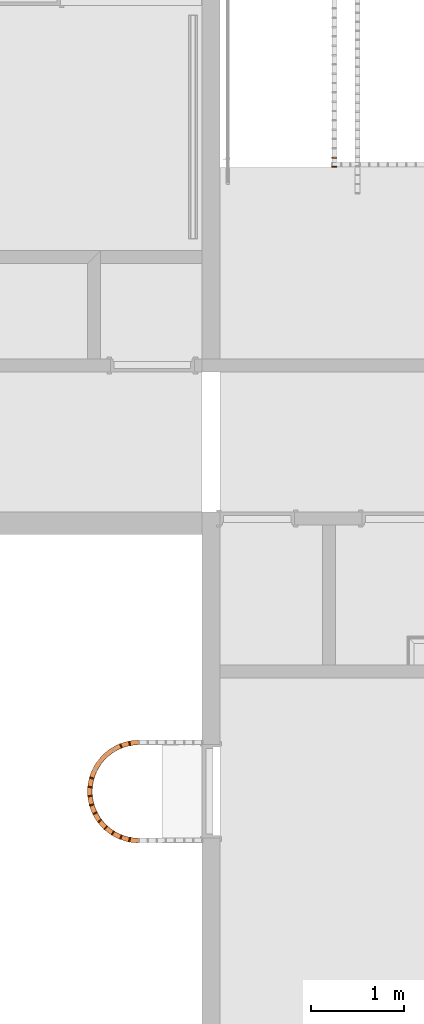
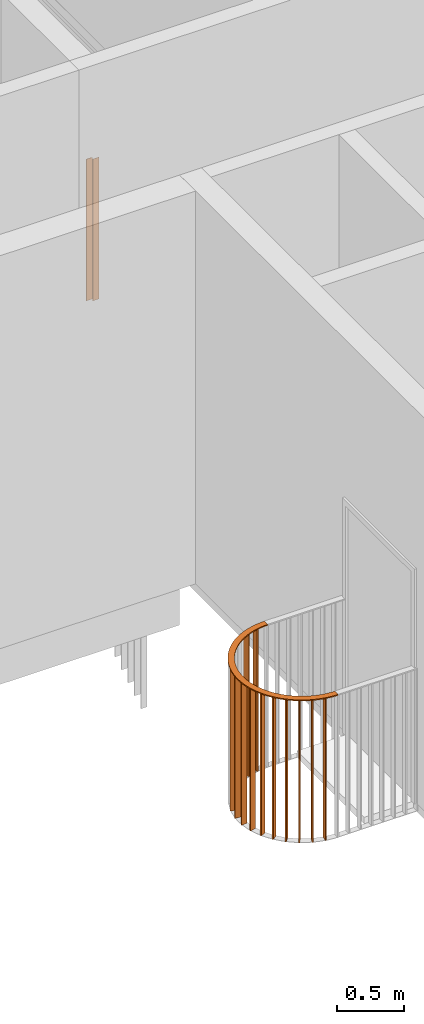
# One storey, part 90 of 100: 15 proxies, 2 elements without a shape of their own.
"""IFC2X3 building model written with IfcOpenShell, lengths in millimetres."""

from ifc_helpers import new_model, entity, si_unit, converted_unit, derived_unit, money_unit, direction, frame, origin_with_axes, place, context, subcontext, project, spatial, faceted_brep, material, type_object, element, aggregate, save


model = new_model("IFC2X3")

# Units and contexts
model_context = context("Model", 3, precision=0.01, world=origin_with_axes(), true_north=direction((0.0, 1.0)))
body_context = subcontext(model_context, "Body", "Model", "MODEL_VIEW")
ifc_project = project(units=[si_unit("LENGTHUNIT", "METRE", prefix="MILLI"), si_unit("AREAUNIT", "SQUARE_METRE"), si_unit("VOLUMEUNIT", "CUBIC_METRE"), converted_unit("PLANEANGLEUNIT", "DEGREE", entity("IfcPlaneAngleMeasure", 0.0174532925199), si_unit("PLANEANGLEUNIT", "RADIAN"), dimensions=[0, 0, 0, 0, 0, 0, 0]), si_unit("SOLIDANGLEUNIT", "STERADIAN"), money_unit("EUR"), converted_unit("TIMEUNIT", "Year", entity("IfcTimeMeasure", 31556926.0), si_unit("TIMEUNIT", "SECOND"), dimensions=[0, 0, 1, 0, 0, 0, 0]), si_unit("MASSUNIT", "GRAM", prefix="KILO"), si_unit("THERMODYNAMICTEMPERATUREUNIT", "DEGREE_CELSIUS"), si_unit("LUMINOUSINTENSITYUNIT", "LUMEN"), si_unit("ENERGYUNIT", "JOULE", prefix="MEGA"), derived_unit("THERMALCONDUCTANCEUNIT", [(si_unit("POWERUNIT", "WATT"), 1), (si_unit("LENGTHUNIT", "METRE"), -1), (si_unit("THERMODYNAMICTEMPERATUREUNIT", "KELVIN"), -1)]), derived_unit("SPECIFICHEATCAPACITYUNIT", [(si_unit("ENERGYUNIT", "JOULE"), 1), (si_unit("MASSUNIT", "GRAM", prefix="KILO"), -1), (si_unit("THERMODYNAMICTEMPERATUREUNIT", "KELVIN"), -1)]), derived_unit("MASSDENSITYUNIT", [(si_unit("MASSUNIT", "GRAM", prefix="KILO"), 1), (si_unit("VOLUMEUNIT", "CUBIC_METRE"), -1)])], contexts=[model_context])

# Site, building, storey
site_placement = place(None, origin_with_axes())
site = spatial("IfcSite", under=ifc_project, at=site_placement, Name="Politse- ja Piirivalveameti ning Päästeameti ühishoone", CompositionType="ELEMENT")
building_placement = place(site_placement, origin_with_axes())
building = spatial("IfcBuilding", under=site, at=building_placement, Name="Politse- ja Piirivalveameti ning Päästeameti ühishoone", CompositionType="ELEMENT")
storey_placement = place(building_placement, frame((0.0, 0.0, 3800.0), z_axis=(0.0, 0.0, 1.0), x_axis=(1.0, 0.0, 0.0)))
storey = spatial("IfcBuildingStorey", under=building, at=storey_placement, Name="Teine korrus", CompositionType="ELEMENT", Elevation=3800.0)

# Railing, proxies
railing_type = type_object("IfcRailingType", Name="Railing Type", PredefinedType="NOTDEFINED")
railing_1_placement = place(storey_placement, frame((61360.5519118, 16576.8795104, -2027.27275421), z_axis=(0.0, 0.0, 1.0), x_axis=(1.0, 0.0, 0.0)))
railing_1 = element("IfcRailing", 1, at=railing_1_placement, inside=storey, type_object=railing_type, Name="TREPIPIIRE 4", PredefinedType="NOTDEFINED")
ifc_material = material(Name="Teras - Konstruktsioon")
building_element_proxy_type = type_object("IfcBuildingElementProxyType", Name="IfcBuildingElementProxy", PredefinedType="NOTDEFINED")
proxy_1_placement = place(railing_1_placement, frame((25.0, 123.072572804, 1727.27272727), z_axis=(0.0, 0.0, 1.0), x_axis=(1.0, 0.0, 0.0)))
proxy_1 = element("IfcBuildingElementProxy", 2, at=proxy_1_placement, type_object=building_element_proxy_type, material=ifc_material, Name="PIIRDE POST - 001", context=body_context, shape_type="Brep", body=[
    faceted_brep([(25.0, 5.0, -3.08441558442), (-25.0, 5.0, -3.08441558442), (-25.0, 5.0, 1286.91558442), (25.0, 5.0, 1286.91558442), (25.0, -5.0, 3.08441558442), (-25.0, -5.0, 3.08441558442), (-25.0, -5.0, 1293.08441558), (25.0, -5.0, 1293.08441558)], [[[0, 1, 2, 3]], [[0, 4, 5, 1]], [[1, 5, 6, 2]], [[3, 2, 6, 7]], [[4, 0, 3, 7]], [[5, 4, 7, 6]]]),
])
proxy_2_placement = place(railing_1_placement, frame((25.0, 223.072572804, 1665.58440303), z_axis=(0.0, 0.0, 1.0), x_axis=(1.0, 0.0, 0.0)))
proxy_2 = element("IfcBuildingElementProxy", 3, at=proxy_2_placement, type_object=building_element_proxy_type, material=ifc_material, Name="BALUSTER - 001", context=body_context, shape_type="Brep", body=[
    faceted_brep([(25.0, 5.0, -3.08441558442), (-25.0, 5.0, -3.08441558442), (-25.0, 5.0, 1286.91559697), (25.0, 5.0, 1286.91559697), (25.0, -5.0, 3.08441558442), (-25.0, -5.0, 3.08441558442), (-25.0, -5.0, 1293.08442814), (25.0, -5.0, 1293.08442814)], [[[0, 1, 2, 3]], [[0, 4, 5, 1]], [[1, 5, 6, 2]], [[3, 2, 6, 7]], [[4, 0, 3, 7]], [[5, 4, 7, 6]]]),
])
aggregate(railing_1, [proxy_1, proxy_2])

railing_2_placement = place(storey_placement, frame((60714.0159923, 9501.12856913, -60.5112732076), z_axis=(0.0, 0.0, 1.0), x_axis=(0.0, 1.0, 0.0)))
railing_2 = element("IfcRailing", 4, at=railing_2_placement, inside=storey, type_object=railing_type, Name="PIIRE 13", PredefinedType="NOTDEFINED")
proxy_3_placement = place(railing_2_placement, frame((500.492559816, 1161.91857124, 1273.07417596), z_axis=(0.0, 0.0, 1.0), x_axis=(0.0, -1.0, 0.0)))
proxy_3 = element("IfcBuildingElementProxy", 5, at=proxy_3_placement, type_object=building_element_proxy_type, material=ifc_material, Name="Piirde Ülaosa - 001", context=body_context, shape_type="Brep", body=[
    faceted_brep([(-263.406928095, -500.494499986, 26.9258240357), (-263.406928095, -500.494499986, 16.9258240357), (-297.882095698, -499.162861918, 16.9258240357), (-297.882095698, -499.162861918, 26.9258240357), (-264.486125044, -550.490100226, 26.9258240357), (-264.486125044, -550.490100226, 16.9258240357), (-301.513778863, -549.059869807, 16.9258240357), (-338.781767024, -545.068060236, 16.9258240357), (-375.69175674, -538.549613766, 16.9258240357), (-412.07265352, -529.534746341, 16.9258240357), (-447.75581546, -518.06524595, 16.9258240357), (-482.57583497, -504.194278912, 16.9258240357), (-516.371305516, -487.986143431, 16.9258240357), (-548.985569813, -469.515971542, 16.9258240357), (-580.267445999, -448.869380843, 16.9258240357), (-610.071928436, -426.142077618, 16.9258240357), (-638.260859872, -401.439413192, 16.9258240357), (-664.703571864, -374.875895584, 16.9258240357), (-689.277490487, -346.574658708, 16.9258240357), (-711.868704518, -316.666891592, 16.9258240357), (-732.372493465, -285.29123026, 16.9258240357), (-750.693812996, -252.593115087, 16.9258240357), (-766.747735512, -218.724116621, 16.9258240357), (-780.459843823, -183.841232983, 16.9258240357), (-791.766576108, -148.106162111, 16.9258240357), (-800.615520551, -111.684552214, 16.9258240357), (-806.965658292, -74.7452339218, 16.9258240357), (-810.787553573, -37.459437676, 16.9258240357), (-812.063490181, 0.0, 16.9258240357), (-762.034493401, 0.0, 16.9258240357), (-760.874510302, -34.0552299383, 16.9258240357), (-757.399938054, -67.9525984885, 16.9258240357), (-751.626882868, -101.534976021, 16.9258240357), (-743.582105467, -134.646693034, 16.9258240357), (-733.302897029, -167.134261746, 16.9258240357), (-720.836906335, -198.847087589, 16.9258240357), (-706.241918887, -229.638167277, 16.9258240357), (-689.585589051, -259.364770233, 16.9258240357), (-670.945126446, -287.889100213, 16.9258240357), (-650.406938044, -315.078934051, 16.9258240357), (-628.066227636, -340.808234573, 16.9258240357), (-604.026554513, -364.957734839, 16.9258240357), (-578.399353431, -387.415490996, 16.9258240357), (-551.303418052, -408.077401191, 16.9258240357), (-522.864350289, -426.847688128, 16.9258240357), (-493.213978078, -443.639343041, 16.9258240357), (-462.489744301, -458.374529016, 16.9258240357), (-430.834069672, -470.984941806, 16.9258240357), (-398.393692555, -481.412126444, 16.9258240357), (-365.318988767, -489.607748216, 16.9258240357), (-331.763274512, -495.53381671, 16.9258240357), (-331.763274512, -495.53381671, 26.9258240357), (-365.318988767, -489.607748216, 26.9258240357), (-398.393692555, -481.412126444, 26.9258240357), (-430.834069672, -470.984941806, 26.9258240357), (-462.489744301, -458.374529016, 26.9258240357), (-493.213978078, -443.639343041, 26.9258240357), (-522.864350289, -426.847688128, 26.9258240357), (-551.303418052, -408.077401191, 26.9258240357), (-578.399353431, -387.415490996, 26.9258240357), (-604.026554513, -364.957734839, 26.9258240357), (-628.066227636, -340.808234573, 26.9258240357), (-650.406938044, -315.078934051, 26.9258240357), (-670.945126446, -287.889100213, 26.9258240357), (-689.585589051, -259.364770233, 26.9258240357), (-706.241918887, -229.638167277, 26.9258240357), (-720.836906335, -198.847087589, 26.9258240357), (-733.302897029, -167.134261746, 26.9258240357), (-743.582105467, -134.646693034, 26.9258240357), (-751.626882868, -101.534976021, 26.9258240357), (-757.399938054, -67.9525984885, 26.9258240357), (-760.874510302, -34.0552299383, 26.9258240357), (-762.034493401, 0.0, 26.9258240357), (-812.063490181, 0.0, 26.9258240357), (-810.787553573, -37.459437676, 26.9258240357), (-806.965658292, -74.7452339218, 26.9258240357), (-800.615520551, -111.684552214, 26.9258240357), (-791.766576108, -148.106162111, 26.9258240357), (-780.459843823, -183.841232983, 26.9258240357), (-766.747735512, -218.724116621, 26.9258240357), (-750.693812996, -252.593115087, 26.9258240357), (-732.372493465, -285.29123026, 26.9258240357), (-711.868704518, -316.666891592, 26.9258240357), (-689.277490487, -346.574658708, 26.9258240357), (-664.703571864, -374.875895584, 26.9258240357), (-638.260859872, -401.439413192, 26.9258240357), (-610.071928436, -426.142077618, 26.9258240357), (-580.267445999, -448.869380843, 26.9258240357), (-548.985569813, -469.515971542, 26.9258240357), (-516.371305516, -487.986143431, 26.9258240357), (-482.57583497, -504.194278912, 26.9258240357), (-447.75581546, -518.06524595, 26.9258240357), (-412.07265352, -529.534746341, 26.9258240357), (-375.69175674, -538.549613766, 26.9258240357), (-338.781767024, -545.068060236, 26.9258240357), (-301.513778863, -549.059869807, 26.9258240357)], [[[0, 1, 2, 3]], [[0, 4, 5, 1]], [[1, 5, 6, 7, 8, 9, 10, 11, 12, 13, 14, 15, 16, 17, 18, 19, 20, 21, 22, 23, 24, 25, 26, 27, 28, 29, 30, 31, 32, 33, 34, 35, 36, 37, 38, 39, 40, 41, 42, 43, 44, 45, 46, 47, 48, 49, 50, 2]], [[3, 2, 50, 51]], [[4, 0, 3, 51, 52, 53, 54, 55, 56, 57, 58, 59, 60, 61, 62, 63, 64, 65, 66, 67, 68, 69, 70, 71, 72, 73, 74, 75, 76, 77, 78, 79, 80, 81, 82, 83, 84, 85, 86, 87, 88, 89, 90, 91, 92, 93, 94, 95]], [[5, 4, 95, 6]], [[6, 95, 94, 7]], [[7, 94, 93, 8]], [[8, 93, 92, 9]], [[9, 92, 91, 10]], [[10, 91, 90, 11]], [[11, 90, 89, 12]], [[12, 89, 88, 13]], [[13, 88, 87, 14]], [[14, 87, 86, 15]], [[15, 86, 85, 16]], [[16, 85, 84, 17]], [[17, 84, 83, 18]], [[18, 83, 82, 19]], [[19, 82, 81, 20]], [[20, 81, 80, 21]], [[21, 80, 79, 22]], [[22, 79, 78, 23]], [[23, 78, 77, 24]], [[24, 77, 76, 25]], [[25, 76, 75, 26]], [[26, 75, 74, 27]], [[27, 74, 73, 28]], [[72, 29, 28, 73]], [[71, 30, 29, 72]], [[70, 31, 30, 71]], [[69, 32, 31, 70]], [[68, 33, 32, 69]], [[67, 34, 33, 68]], [[66, 35, 34, 67]], [[65, 36, 35, 66]], [[64, 37, 36, 65]], [[63, 38, 37, 64]], [[62, 39, 38, 63]], [[61, 40, 39, 62]], [[60, 41, 40, 61]], [[59, 42, 41, 60]], [[58, 43, 42, 59]], [[57, 44, 43, 58]], [[56, 45, 44, 57]], [[55, 46, 45, 56]], [[54, 47, 46, 55]], [[53, 48, 47, 54]], [[52, 49, 48, 53]], [[51, 50, 49, 52]]]),
    faceted_brep([(-762.034493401, 0.0, 26.9258240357), (-762.034493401, 0.0, 16.9258240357), (-760.874510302, 34.0552299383, 16.9258240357), (-760.874510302, 34.0552299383, 26.9258240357), (-812.063490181, 0.0, 26.9258240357), (-812.063490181, 0.0, 16.9258240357), (-810.787553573, 37.4594376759, 16.9258240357), (-806.965658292, 74.7452339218, 16.9258240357), (-800.615520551, 111.684552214, 16.9258240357), (-791.766576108, 148.106162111, 16.9258240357), (-780.459843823, 183.841232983, 16.9258240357), (-766.747735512, 218.724116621, 16.9258240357), (-750.693812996, 252.593115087, 16.9258240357), (-732.372493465, 285.29123026, 16.9258240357), (-711.868704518, 316.666891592, 16.9258240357), (-689.277490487, 346.574658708, 16.9258240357), (-664.703571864, 374.875895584, 16.9258240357), (-638.260859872, 401.439413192, 16.9258240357), (-610.071928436, 426.142077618, 16.9258240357), (-580.267445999, 448.869380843, 16.9258240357), (-548.985569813, 469.515971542, 16.9258240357), (-516.371305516, 487.986143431, 16.9258240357), (-482.57583497, 504.194278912, 16.9258240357), (-447.75581546, 518.06524595, 16.9258240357), (-412.07265352, 529.534746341, 16.9258240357), (-375.69175674, 538.549613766, 16.9258240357), (-338.781767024, 545.068060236, 16.9258240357), (-301.513778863, 549.059869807, 16.9258240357), (-264.486125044, 550.490100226, 16.9258240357), (-263.406928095, 500.494499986, 16.9258240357), (-297.882095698, 499.162861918, 16.9258240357), (-331.763274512, 495.53381671, 16.9258240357), (-365.318988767, 489.607748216, 16.9258240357), (-398.393692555, 481.412126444, 16.9258240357), (-430.834069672, 470.984941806, 16.9258240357), (-462.489744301, 458.374529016, 16.9258240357), (-493.213978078, 443.639343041, 16.9258240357), (-522.864350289, 426.847688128, 16.9258240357), (-551.303418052, 408.077401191, 16.9258240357), (-578.399353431, 387.415490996, 16.9258240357), (-604.026554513, 364.957734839, 16.9258240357), (-628.066227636, 340.808234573, 16.9258240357), (-650.406938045, 315.078934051, 16.9258240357), (-670.945126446, 287.889100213, 16.9258240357), (-689.585589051, 259.364770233, 16.9258240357), (-706.241918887, 229.638167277, 16.9258240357), (-720.836906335, 198.847087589, 16.9258240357), (-733.302897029, 167.134261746, 16.9258240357), (-743.582105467, 134.646693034, 16.9258240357), (-751.626882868, 101.534976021, 16.9258240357), (-757.399938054, 67.9525984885, 16.9258240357), (-757.399938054, 67.9525984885, 26.9258240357), (-751.626882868, 101.534976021, 26.9258240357), (-743.582105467, 134.646693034, 26.9258240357), (-733.302897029, 167.134261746, 26.9258240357), (-720.836906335, 198.847087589, 26.9258240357), (-706.241918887, 229.638167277, 26.9258240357), (-689.585589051, 259.364770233, 26.9258240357), (-670.945126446, 287.889100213, 26.9258240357), (-650.406938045, 315.078934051, 26.9258240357), (-628.066227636, 340.808234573, 26.9258240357), (-604.026554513, 364.957734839, 26.9258240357), (-578.399353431, 387.415490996, 26.9258240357), (-551.303418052, 408.077401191, 26.9258240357), (-522.864350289, 426.847688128, 26.9258240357), (-493.213978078, 443.639343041, 26.9258240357), (-462.489744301, 458.374529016, 26.9258240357), (-430.834069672, 470.984941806, 26.9258240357), (-398.393692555, 481.412126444, 26.9258240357), (-365.318988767, 489.607748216, 26.9258240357), (-331.763274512, 495.53381671, 26.9258240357), (-297.882095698, 499.162861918, 26.9258240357), (-263.406928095, 500.494499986, 26.9258240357), (-264.486125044, 550.490100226, 26.9258240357), (-301.513778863, 549.059869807, 26.9258240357), (-338.781767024, 545.068060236, 26.9258240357), (-375.69175674, 538.549613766, 26.9258240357), (-412.07265352, 529.534746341, 26.9258240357), (-447.75581546, 518.06524595, 26.9258240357), (-482.57583497, 504.194278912, 26.9258240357), (-516.371305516, 487.986143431, 26.9258240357), (-548.985569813, 469.515971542, 26.9258240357), (-580.267445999, 448.869380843, 26.9258240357), (-610.071928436, 426.142077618, 26.9258240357), (-638.260859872, 401.439413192, 26.9258240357), (-664.703571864, 374.875895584, 26.9258240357), (-689.277490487, 346.574658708, 26.9258240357), (-711.868704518, 316.666891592, 26.9258240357), (-732.372493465, 285.29123026, 26.9258240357), (-750.693812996, 252.593115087, 26.9258240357), (-766.747735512, 218.724116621, 26.9258240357), (-780.459843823, 183.841232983, 26.9258240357), (-791.766576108, 148.106162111, 26.9258240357), (-800.615520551, 111.684552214, 26.9258240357), (-806.965658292, 74.7452339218, 26.9258240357), (-810.787553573, 37.4594376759, 26.9258240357)], [[[0, 1, 2, 3]], [[0, 4, 5, 1]], [[1, 5, 6, 7, 8, 9, 10, 11, 12, 13, 14, 15, 16, 17, 18, 19, 20, 21, 22, 23, 24, 25, 26, 27, 28, 29, 30, 31, 32, 33, 34, 35, 36, 37, 38, 39, 40, 41, 42, 43, 44, 45, 46, 47, 48, 49, 50, 2]], [[3, 2, 50, 51]], [[4, 0, 3, 51, 52, 53, 54, 55, 56, 57, 58, 59, 60, 61, 62, 63, 64, 65, 66, 67, 68, 69, 70, 71, 72, 73, 74, 75, 76, 77, 78, 79, 80, 81, 82, 83, 84, 85, 86, 87, 88, 89, 90, 91, 92, 93, 94, 95]], [[5, 4, 95, 6]], [[6, 95, 94, 7]], [[7, 94, 93, 8]], [[8, 93, 92, 9]], [[9, 92, 91, 10]], [[10, 91, 90, 11]], [[11, 90, 89, 12]], [[12, 89, 88, 13]], [[13, 88, 87, 14]], [[14, 87, 86, 15]], [[15, 86, 85, 16]], [[16, 85, 84, 17]], [[17, 84, 83, 18]], [[18, 83, 82, 19]], [[19, 82, 81, 20]], [[20, 81, 80, 21]], [[21, 80, 79, 22]], [[22, 79, 78, 23]], [[23, 78, 77, 24]], [[24, 77, 76, 25]], [[25, 76, 75, 26]], [[26, 75, 74, 27]], [[27, 74, 73, 28]], [[72, 29, 28, 73]], [[71, 30, 29, 72]], [[70, 31, 30, 71]], [[69, 32, 31, 70]], [[68, 33, 32, 69]], [[67, 34, 33, 68]], [[66, 35, 34, 67]], [[65, 36, 35, 66]], [[64, 37, 36, 65]], [[63, 38, 37, 64]], [[62, 39, 38, 63]], [[61, 40, 39, 62]], [[60, 41, 40, 61]], [[59, 42, 41, 60]], [[58, 43, 42, 59]], [[57, 44, 43, 58]], [[56, 45, 44, 57]], [[55, 46, 45, 56]], [[54, 47, 46, 55]], [[53, 48, 47, 54]], [[52, 49, 48, 53]], [[51, 50, 49, 52]]]),
])
proxy_4_placement = place(railing_2_placement, frame((-15.6650696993, 1522.10649275, -1.25516996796e-05), z_axis=(0.0, 0.0, 1.0), x_axis=(0.0, -1.0, 0.0)))
proxy_4 = element("IfcBuildingElementProxy", 6, at=proxy_4_placement, type_object=building_element_proxy_type, material=ifc_material, Name="BALUSTER - 001", context=body_context, shape_type="Brep", body=[
    faceted_brep([(-0.218594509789, 25.494160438, 0.0), (-9.60366677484, -23.617145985, 0.0), (-9.60366677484, -23.617145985, 1290.00001255), (-0.218594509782, 25.494160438, 1290.00001255), (9.60366677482, 23.617145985, 0.0), (0.218594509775, -25.494160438, 0.0), (0.218594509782, -25.494160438, 1290.00001255), (9.60366677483, 23.617145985, 1290.00001255)], [[[0, 1, 2, 3]], [[0, 4, 5, 1]], [[1, 5, 6, 2]], [[3, 2, 6, 7]], [[4, 0, 3, 7]], [[5, 4, 7, 6]]]),
])
proxy_5_placement = place(railing_2_placement, frame((11.1451551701, 1615.00834428, -1.25516996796e-05), z_axis=(0.0, 0.0, 1.0), x_axis=(0.0, -1.0, 0.0)))
proxy_5 = element("IfcBuildingElementProxy", 7, at=proxy_5_placement, type_object=building_element_proxy_type, material=ifc_material, Name="BALUSTER - 001", context=body_context, shape_type="Brep", body=[
    faceted_brep([(4.45620641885, 25.1026338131, 0.0), (-13.7682804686, -21.4577364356, 0.0), (-13.7682804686, -21.4577364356, 1290.00001255), (4.45620641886, 25.1026338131, 1290.00001255), (13.7682804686, 21.4577364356, 0.0), (-4.45620641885, -25.1026338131, 0.0), (-4.45620641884, -25.1026338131, 1290.00001255), (13.7682804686, 21.4577364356, 1290.00001255)], [[[0, 1, 2, 3]], [[0, 4, 5, 1]], [[1, 5, 6, 2]], [[3, 2, 6, 7]], [[4, 0, 3, 7]], [[5, 4, 7, 6]]]),
])
proxy_6_placement = place(railing_2_placement, frame((54.5232202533, 1701.42527344, -1.25516996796e-05), z_axis=(0.0, 0.0, 1.0), x_axis=(0.0, -1.0, 0.0)))
proxy_6 = element("IfcBuildingElementProxy", 8, at=proxy_6_placement, type_object=building_element_proxy_type, material=ifc_material, Name="BALUSTER - 001", context=body_context, shape_type="Brep", body=[
    faceted_brep([(8.98013352, 23.8612070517, 0.0), (-17.466741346, -18.5718320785, 0.0), (-17.466741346, -18.5718320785, 1290.00001255), (8.98013352, 23.8612070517, 1290.00001255), (17.466741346, 18.5718320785, 0.0), (-8.98013352, -23.8612070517, 0.0), (-8.98013351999, -23.8612070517, 1290.00001255), (17.466741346, 18.5718320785, 1290.00001255)], [[[0, 1, 2, 3]], [[0, 4, 5, 1]], [[1, 5, 6, 2]], [[3, 2, 6, 7]], [[4, 0, 3, 7]], [[5, 4, 7, 6]]]),
])
proxy_7_placement = place(railing_2_placement, frame((113.000473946, 1778.43146135, -1.25516996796e-05), z_axis=(0.0, 0.0, 1.0), x_axis=(0.0, -1.0, 0.0)))
proxy_7 = element("IfcBuildingElementProxy", 9, at=proxy_7_placement, type_object=building_element_proxy_type, material=ifc_material, Name="BALUSTER - 001", context=body_context, shape_type="Brep", body=[
    faceted_brep([(13.2000201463, 21.8119111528, 0.0), (-20.5738305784, -15.0571410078, 0.0), (-20.5738305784, -15.0571410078, 1290.00001255), (13.2000201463, 21.8119111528, 1290.00001255), (20.5738305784, 15.0571410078, 0.0), (-13.2000201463, -21.8119111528, 0.0), (-13.2000201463, -21.8119111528, 1290.00001255), (20.5738305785, 15.0571410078, 1290.00001255)], [[[0, 1, 2, 3]], [[0, 4, 5, 1]], [[1, 5, 6, 2]], [[3, 2, 6, 7]], [[4, 0, 3, 7]], [[5, 4, 7, 6]]]),
])
proxy_8_placement = place(railing_2_placement, frame((184.597051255, 1843.41970869, -1.25516996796e-05), z_axis=(0.0, 0.0, 1.0), x_axis=(0.0, -1.0, 0.0)))
proxy_8 = element("IfcBuildingElementProxy", 10, at=proxy_8_placement, type_object=building_element_proxy_type, material=ifc_material, Name="BALUSTER - 001", context=body_context, shape_type="Brep", body=[
    faceted_brep([(16.9729935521, 19.0241291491, 0.0), (-22.9843514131, -11.0326601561, 0.0), (-22.9843514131, -11.0326601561, 1290.00001255), (16.9729935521, 19.0241291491, 1290.00001255), (22.9843514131, 11.0326601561, 0.0), (-16.9729935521, -19.0241291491, 0.0), (-16.9729935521, -19.0241291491, 1290.00001255), (22.9843514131, 11.0326601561, 1290.00001255)], [[[0, 1, 2, 3]], [[0, 4, 5, 1]], [[1, 5, 6, 2]], [[3, 2, 6, 7]], [[4, 0, 3, 7]], [[5, 4, 7, 6]]]),
])
proxy_9_placement = place(railing_2_placement, frame((266.888906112, 1894.1897077, -1.25516996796e-05), z_axis=(0.0, 0.0, 1.0), x_axis=(0.0, -1.0, 0.0)))
proxy_9 = element("IfcBuildingElementProxy", 11, at=proxy_9_placement, type_object=building_element_proxy_type, material=ifc_material, Name="BALUSTER - 001", context=body_context, shape_type="Brep", body=[
    faceted_brep([(20.171312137, 15.5922470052, 0.0), (-24.6166908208, -6.63464641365, 0.0), (-24.6166908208, -6.63464641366, 1290.00001255), (20.171312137, 15.5922470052, 1290.00001255), (24.6166908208, 6.63464641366, 0.0), (-20.171312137, -15.5922470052, 0.0), (-20.171312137, -15.5922470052, 1290.00001255), (24.6166908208, 6.63464641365, 1290.00001255)], [[[0, 1, 2, 3]], [[0, 4, 5, 1]], [[1, 5, 6, 2]], [[3, 2, 6, 7]], [[4, 0, 3, 7]], [[5, 4, 7, 6]]]),
])
proxy_10_placement = place(railing_2_placement, frame((357.089882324, 1929.02253799, -1.25516996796e-05), z_axis=(0.0, 0.0, 1.0), x_axis=(0.0, -1.0, 0.0)))
proxy_10 = element("IfcBuildingElementProxy", 12, at=proxy_10_placement, type_object=building_element_proxy_type, material=ifc_material, Name="BALUSTER - 001", context=body_context, shape_type="Brep", body=[
    faceted_brep([(22.6866903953, 11.6324579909, 0.0), (-25.415582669, -2.01200337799, 0.0), (-25.415582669, -2.012003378, 1290.00001255), (22.6866903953, 11.6324579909, 1290.00001255), (25.415582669, 2.012003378, 0.0), (-22.6866903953, -11.6324579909, 0.0), (-22.6866903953, -11.6324579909, 1290.00001255), (25.415582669, 2.01200337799, 1290.00001255)], [[[0, 1, 2, 3]], [[0, 4, 5, 1]], [[1, 5, 6, 2]], [[3, 2, 6, 7]], [[4, 0, 3, 7]], [[5, 4, 7, 6]]]),
])
proxy_11_placement = place(railing_2_placement, frame((452.146044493, 1946.73886405, -1.25516996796e-05), z_axis=(0.0, 0.0, 1.0), x_axis=(0.0, -1.0, 0.0)))
proxy_11 = element("IfcBuildingElementProxy", 13, at=proxy_11_placement, type_object=building_element_proxy_type, material=ifc_material, Name="BALUSTER - 001", context=body_context, shape_type="Brep", body=[
    faceted_brep([(24.4339651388, 7.27882872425, 0.0), (-25.3539788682, 2.67876007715, 0.0), (-25.3539788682, 2.67876007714, 1290.00001255), (24.4339651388, 7.27882872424, 1290.00001255), (25.3539788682, -2.67876007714, 0.0), (-24.4339651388, -7.27882872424, 0.0), (-24.4339651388, -7.27882872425, 1290.00001255), (25.3539788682, -2.67876007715, 1290.00001255)], [[[0, 1, 2, 3]], [[0, 4, 5, 1]], [[1, 5, 6, 2]], [[3, 2, 6, 7]], [[4, 0, 3, 7]], [[5, 4, 7, 6]]]),
])
proxy_12_placement = place(railing_2_placement, frame((548.839075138, 1946.73886405, -1.25516996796e-05), z_axis=(0.0, 0.0, 1.0), x_axis=(0.0, -1.0, 0.0)))
proxy_12 = element("IfcBuildingElementProxy", 14, at=proxy_12_placement, type_object=building_element_proxy_type, material=ifc_material, Name="BALUSTER - 001", context=body_context, shape_type="Brep", body=[
    faceted_brep([(25.3539788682, 2.67876007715, 0.0), (-24.4339651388, 7.27882872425, 0.0), (-24.4339651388, 7.27882872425, 1290.00001255), (25.3539788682, 2.67876007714, 1290.00001255), (24.4339651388, -7.27882872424, 0.0), (-25.3539788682, -2.67876007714, 0.0), (-25.3539788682, -2.67876007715, 1290.00001255), (24.4339651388, -7.27882872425, 1290.00001255)], [[[0, 1, 2, 3]], [[0, 4, 5, 1]], [[1, 5, 6, 2]], [[3, 2, 6, 7]], [[4, 0, 3, 7]], [[5, 4, 7, 6]]]),
])
proxy_13_placement = place(railing_2_placement, frame((643.895237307, 1929.02253799, -1.25516996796e-05), z_axis=(0.0, 0.0, 1.0), x_axis=(0.0, -1.0, 0.0)))
proxy_13 = element("IfcBuildingElementProxy", 15, at=proxy_13_placement, type_object=building_element_proxy_type, material=ifc_material, Name="BALUSTER - 001", context=body_context, shape_type="Brep", body=[
    faceted_brep([(25.415582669, -2.01200337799, 0.0), (-22.6866903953, 11.6324579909, 0.0), (-22.6866903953, 11.6324579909, 1290.00001255), (25.415582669, -2.012003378, 1290.00001255), (22.6866903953, -11.6324579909, 0.0), (-25.415582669, 2.012003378, 0.0), (-25.415582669, 2.01200337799, 1290.00001255), (22.6866903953, -11.6324579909, 1290.00001255)], [[[0, 1, 2, 3]], [[0, 4, 5, 1]], [[1, 5, 6, 2]], [[3, 2, 6, 7]], [[4, 0, 3, 7]], [[5, 4, 7, 6]]]),
])
proxy_14_placement = place(railing_2_placement, frame((989.839964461, 1615.00834428, -1.25516996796e-05), z_axis=(0.0, 0.0, 1.0), x_axis=(0.0, -1.0, 0.0)))
proxy_14 = element("IfcBuildingElementProxy", 16, at=proxy_14_placement, type_object=building_element_proxy_type, material=ifc_material, Name="BALUSTER - 001", context=body_context, shape_type="Brep", body=[
    faceted_brep([(13.7682804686, -21.4577364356, 0.0), (-4.45620641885, 25.1026338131, 0.0), (-4.45620641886, 25.1026338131, 1290.00001255), (13.7682804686, -21.4577364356, 1290.00001255), (4.45620641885, -25.1026338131, 0.0), (-13.7682804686, 21.4577364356, 0.0), (-13.7682804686, 21.4577364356, 1290.00001255), (4.45620641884, -25.1026338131, 1290.00001255)], [[[0, 1, 2, 3]], [[0, 4, 5, 1]], [[1, 5, 6, 2]], [[3, 2, 6, 7]], [[4, 0, 3, 7]], [[5, 4, 7, 6]]]),
])
proxy_15_placement = place(railing_2_placement, frame((1016.65018933, 1522.10649275, -1.25516996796e-05), z_axis=(0.0, 0.0, 1.0), x_axis=(0.0, -1.0, 0.0)))
proxy_15 = element("IfcBuildingElementProxy", 17, at=proxy_15_placement, type_object=building_element_proxy_type, material=ifc_material, Name="BALUSTER - 001", context=body_context, shape_type="Brep", body=[
    faceted_brep([(9.60366677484, -23.617145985, 0.0), (0.218594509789, 25.494160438, 0.0), (0.218594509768, 25.494160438, 1290.00001255), (9.60366677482, -23.617145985, 1290.00001255), (-0.218594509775, -25.494160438, 0.0), (-9.60366677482, 23.617145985, 0.0), (-9.60366677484, 23.617145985, 1290.00001255), (-0.218594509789, -25.494160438, 1290.00001255)], [[[0, 1, 2, 3]], [[0, 4, 5, 1]], [[1, 5, 6, 2]], [[3, 2, 6, 7]], [[4, 0, 3, 7]], [[5, 4, 7, 6]]]),
])
aggregate(railing_2, [proxy_3, proxy_4, proxy_5, proxy_6, proxy_7, proxy_8, proxy_9, proxy_10, proxy_11, proxy_12, proxy_13, proxy_14, proxy_15])

save(model, "model.ifc")
